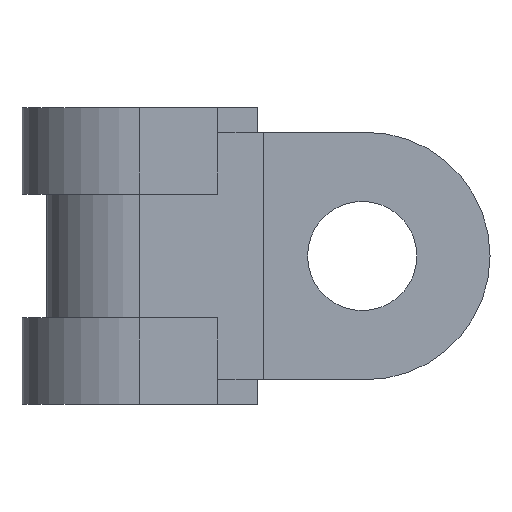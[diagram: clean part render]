
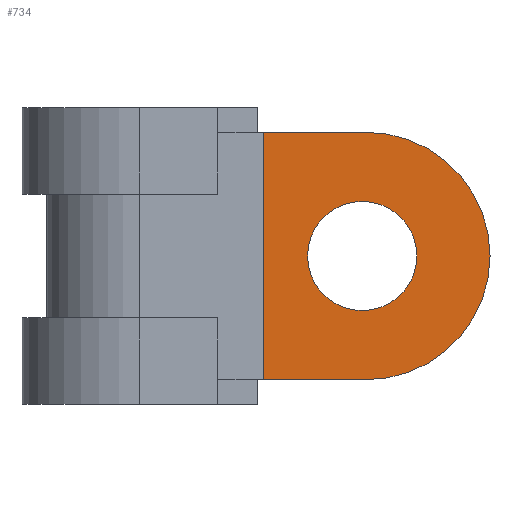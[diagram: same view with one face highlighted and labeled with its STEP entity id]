
A CAD part, front view. The second image highlights one B-rep face of the part: STEP entity #734.
In plain terms, the highlighted planar face has unit normal (0, -1, 0).
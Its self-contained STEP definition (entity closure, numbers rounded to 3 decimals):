
#31 = LINE ( 'NONE', #277, #916 ) ;
#36 = DIRECTION ( 'NONE',  ( -1., 0., 0. ) ) ;
#42 = CARTESIAN_POINT ( 'NONE',  ( 11., -1.5, 6. ) ) ;
#61 = CARTESIAN_POINT ( 'NONE',  ( 10.8, -1.5, 0. ) ) ;
#69 = FACE_OUTER_BOUND ( 'NONE', #1167, .T. ) ;
#77 = CARTESIAN_POINT ( 'NONE',  ( 11., -1.5, 0. ) ) ;
#115 = DIRECTION ( 'NONE',  ( -1., 0., 0. ) ) ;
#127 = DIRECTION ( 'NONE',  ( 0., 0., 1. ) ) ;
#147 = DIRECTION ( 'NONE',  ( 1., 0., 0. ) ) ;
#223 = VECTOR ( 'NONE', #147, 1000. ) ;
#234 = CARTESIAN_POINT ( 'NONE',  ( 6., -1.5, 6. ) ) ;
#259 = EDGE_CURVE ( 'NONE', #875, #1044, #1552, .T. ) ;
#274 = EDGE_CURVE ( 'NONE', #1044, #875, #618, .T. ) ;
#277 = CARTESIAN_POINT ( 'NONE',  ( 6., -1.5, -6. ) ) ;
#278 = VERTEX_POINT ( 'NONE', #630 ) ;
#280 = CARTESIAN_POINT ( 'NONE',  ( 11., -1.5, 0. ) ) ;
#302 = EDGE_CURVE ( 'NONE', #1287, #278, #895, .T. ) ;
#365 = EDGE_CURVE ( 'NONE', #278, #1511, #846, .T. ) ;
#398 = DIRECTION ( 'NONE',  ( 0., 0., 1. ) ) ;
#401 = EDGE_LOOP ( 'NONE', ( #439, #622 ) ) ;
#439 = ORIENTED_EDGE ( 'NONE', *, *, #274, .T. ) ;
#447 = ORIENTED_EDGE ( 'NONE', *, *, #365, .F. ) ;
#567 = AXIS2_PLACEMENT_3D ( 'NONE', #870, #754, #127 ) ;
#618 = CIRCLE ( 'NONE', #567, 2.65 ) ;
#622 = ORIENTED_EDGE ( 'NONE', *, *, #259, .T. ) ;
#630 = CARTESIAN_POINT ( 'NONE',  ( 11., -1.5, -6. ) ) ;
#699 = PLANE ( 'NONE',  #993 ) ;
#715 = ORIENTED_EDGE ( 'NONE', *, *, #874, .F. ) ;
#730 = CARTESIAN_POINT ( 'NONE',  ( 11., -1.5, -6. ) ) ;
#734 = ADVANCED_FACE ( 'NONE', ( #1177, #69 ), #699, .T. ) ;
#739 = CARTESIAN_POINT ( 'NONE',  ( 11., -1.5, 6. ) ) ;
#754 = DIRECTION ( 'NONE',  ( 0., 1., 0. ) ) ;
#771 = AXIS2_PLACEMENT_3D ( 'NONE', #280, #1142, #36 ) ;
#789 = CARTESIAN_POINT ( 'NONE',  ( 10.8, -1.5, -2.65 ) ) ;
#806 = CARTESIAN_POINT ( 'NONE',  ( 10.8, -1.5, 2.65 ) ) ;
#809 = ORIENTED_EDGE ( 'NONE', *, *, #302, .F. ) ;
#830 = DIRECTION ( 'NONE',  ( -1., 0., 0. ) ) ;
#846 = LINE ( 'NONE', #730, #976 ) ;
#863 = ORIENTED_EDGE ( 'NONE', *, *, #881, .F. ) ;
#870 = CARTESIAN_POINT ( 'NONE',  ( 10.8, -1.5, 0. ) ) ;
#872 = AXIS2_PLACEMENT_3D ( 'NONE', #61, #1520, #1265 ) ;
#874 = EDGE_CURVE ( 'NONE', #1222, #1287, #1509, .T. ) ;
#875 = VERTEX_POINT ( 'NONE', #789 ) ;
#881 = EDGE_CURVE ( 'NONE', #1511, #1222, #31, .T. ) ;
#895 = CIRCLE ( 'NONE', #771, 6. ) ;
#916 = VECTOR ( 'NONE', #398, 1000. ) ;
#976 = VECTOR ( 'NONE', #830, 1000. ) ;
#990 = DIRECTION ( 'NONE',  ( 0., -1., 0. ) ) ;
#993 = AXIS2_PLACEMENT_3D ( 'NONE', #77, #990, #115 ) ;
#1044 = VERTEX_POINT ( 'NONE', #806 ) ;
#1142 = DIRECTION ( 'NONE',  ( 0., 1., 0. ) ) ;
#1167 = EDGE_LOOP ( 'NONE', ( #447, #809, #715, #863 ) ) ;
#1177 = FACE_BOUND ( 'NONE', #401, .T. ) ;
#1222 = VERTEX_POINT ( 'NONE', #234 ) ;
#1265 = DIRECTION ( 'NONE',  ( 0., 0., 1. ) ) ;
#1287 = VERTEX_POINT ( 'NONE', #739 ) ;
#1509 = LINE ( 'NONE', #42, #223 ) ;
#1511 = VERTEX_POINT ( 'NONE', #1547 ) ;
#1520 = DIRECTION ( 'NONE',  ( 0., 1., 0. ) ) ;
#1547 = CARTESIAN_POINT ( 'NONE',  ( 6., -1.5, -6. ) ) ;
#1552 = CIRCLE ( 'NONE', #872, 2.65 ) ;
